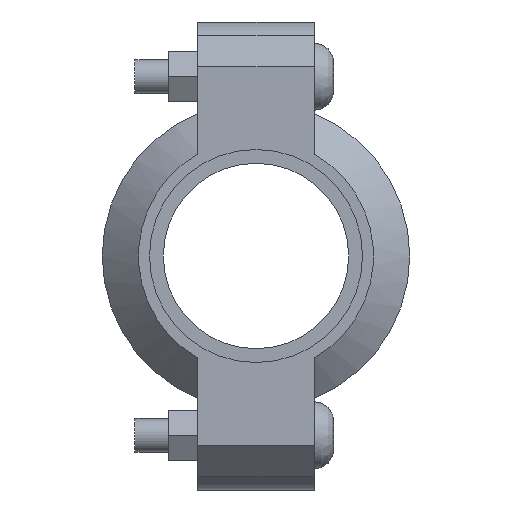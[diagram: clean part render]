
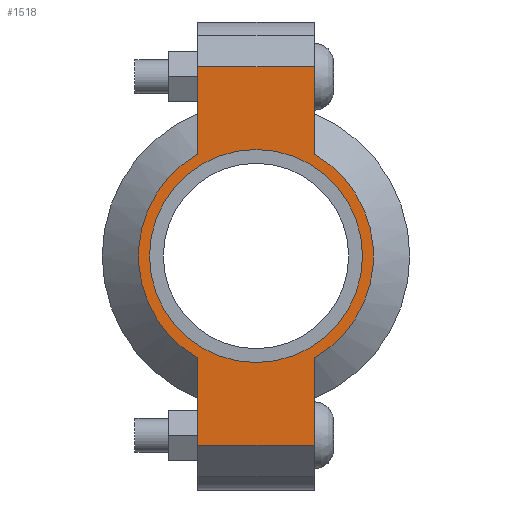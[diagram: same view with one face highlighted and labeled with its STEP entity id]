
A CAD part, left-side view. The second image highlights one B-rep face of the part: STEP entity #1518.
In plain terms, the highlighted planar face has unit normal (-1, 0, 0) as drawn and (0, 0, 1) by its records, which use the part's own axes.
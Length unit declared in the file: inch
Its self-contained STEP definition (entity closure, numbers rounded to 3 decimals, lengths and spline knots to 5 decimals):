
#142=LINE('',#2640,#235);
#150=LINE('',#2676,#243);
#157=LINE('',#2697,#250);
#166=LINE('',#2729,#259);
#167=LINE('',#2733,#260);
#168=LINE('',#2735,#261);
#235=VECTOR('',#2156,0.3937);
#243=VECTOR('',#2172,0.3937);
#250=VECTOR('',#2191,0.3937);
#259=VECTOR('',#2216,0.3937);
#260=VECTOR('',#2221,0.3937);
#261=VECTOR('',#2222,0.3937);
#317=FACE_BOUND('',#495,.T.);
#389=FACE_OUTER_BOUND('',#494,.T.);
#494=EDGE_LOOP('',(#1259,#1260,#1261,#1262,#1263,#1264,#1265,#1266));
#495=EDGE_LOOP('',(#1267));
#567=CIRCLE('',#1728,1.1875);
#593=CIRCLE('',#1787,1.31);
#594=CIRCLE('',#1788,1.31);
#659=VERTEX_POINT('',#2456);
#702=VERTEX_POINT('',#2637);
#703=VERTEX_POINT('',#2639);
#714=VERTEX_POINT('',#2671);
#715=VERTEX_POINT('',#2675);
#722=VERTEX_POINT('',#2694);
#723=VERTEX_POINT('',#2696);
#733=VERTEX_POINT('',#2732);
#734=VERTEX_POINT('',#2734);
#815=EDGE_CURVE('',#659,#659,#567,.T.);
#876=EDGE_CURVE('',#703,#702,#142,.T.);
#890=EDGE_CURVE('',#715,#714,#150,.T.);
#900=EDGE_CURVE('',#723,#722,#157,.T.);
#915=EDGE_CURVE('',#715,#702,#166,.T.);
#916=EDGE_CURVE('',#714,#723,#593,.T.);
#917=EDGE_CURVE('',#733,#722,#167,.T.);
#918=EDGE_CURVE('',#733,#734,#168,.T.);
#919=EDGE_CURVE('',#734,#703,#594,.T.);
#1259=ORIENTED_EDGE('',*,*,#915,.F.);
#1260=ORIENTED_EDGE('',*,*,#890,.T.);
#1261=ORIENTED_EDGE('',*,*,#916,.T.);
#1262=ORIENTED_EDGE('',*,*,#900,.T.);
#1263=ORIENTED_EDGE('',*,*,#917,.F.);
#1264=ORIENTED_EDGE('',*,*,#918,.T.);
#1265=ORIENTED_EDGE('',*,*,#919,.T.);
#1266=ORIENTED_EDGE('',*,*,#876,.T.);
#1267=ORIENTED_EDGE('',*,*,#815,.T.);
#1360=PLANE('',#1786);
#1518=ADVANCED_FACE('',(#389,#317),#1360,.T.);
#1728=AXIS2_PLACEMENT_3D('',#2458,#2032,#2033);
#1786=AXIS2_PLACEMENT_3D('',#2730,#2217,#2218);
#1787=AXIS2_PLACEMENT_3D('',#2731,#2219,#2220);
#1788=AXIS2_PLACEMENT_3D('',#2736,#2223,#2224);
#2032=DIRECTION('center_axis',(0.,0.,-1.));
#2033=DIRECTION('ref_axis',(-1.,0.,0.));
#2156=DIRECTION('',(-1.,0.,0.));
#2172=DIRECTION('',(1.,0.,0.));
#2191=DIRECTION('',(1.,0.,0.));
#2216=DIRECTION('',(0.,1.,0.));
#2217=DIRECTION('center_axis',(0.,0.,1.));
#2218=DIRECTION('ref_axis',(1.,0.,0.));
#2219=DIRECTION('center_axis',(0.,0.,1.));
#2220=DIRECTION('ref_axis',(-1.,0.,0.));
#2221=DIRECTION('',(0.,-1.,0.));
#2222=DIRECTION('',(-1.,0.,0.));
#2223=DIRECTION('center_axis',(0.,0.,1.));
#2224=DIRECTION('ref_axis',(-1.,0.,0.));
#2456=CARTESIAN_POINT('',(1.1875,0.,0.94));
#2458=CARTESIAN_POINT('Origin',(0.,0.,0.94));
#2637=CARTESIAN_POINT('',(-2.11,0.65,0.94));
#2639=CARTESIAN_POINT('',(-1.13737,0.65,0.94));
#2640=CARTESIAN_POINT('',(-2.61,0.65,0.94));
#2671=CARTESIAN_POINT('',(-1.13737,-0.65,0.94));
#2675=CARTESIAN_POINT('',(-2.11,-0.65,0.94));
#2676=CARTESIAN_POINT('',(2.61,-0.65,0.94));
#2694=CARTESIAN_POINT('',(2.11,-0.65,0.94));
#2696=CARTESIAN_POINT('',(1.13737,-0.65,0.94));
#2697=CARTESIAN_POINT('',(2.61,-0.65,0.94));
#2729=CARTESIAN_POINT('',(-2.11,0.325,0.94));
#2730=CARTESIAN_POINT('Origin',(0.,0.,0.94));
#2731=CARTESIAN_POINT('Origin',(0.,0.,0.94));
#2732=CARTESIAN_POINT('',(2.11,0.65,0.94));
#2733=CARTESIAN_POINT('',(2.11,-0.325,0.94));
#2734=CARTESIAN_POINT('',(1.13737,0.65,0.94));
#2735=CARTESIAN_POINT('',(-2.61,0.65,0.94));
#2736=CARTESIAN_POINT('Origin',(0.,0.,0.94));
